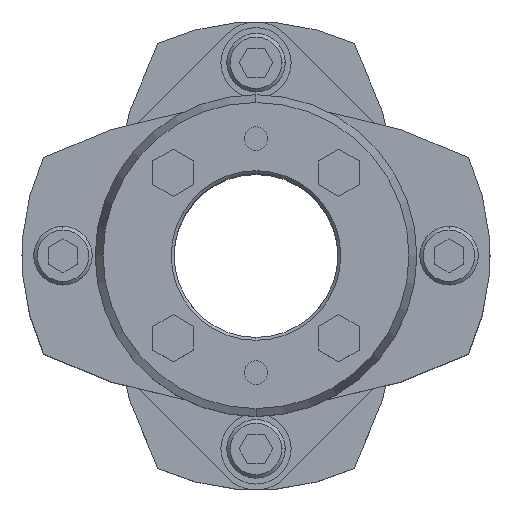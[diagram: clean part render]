
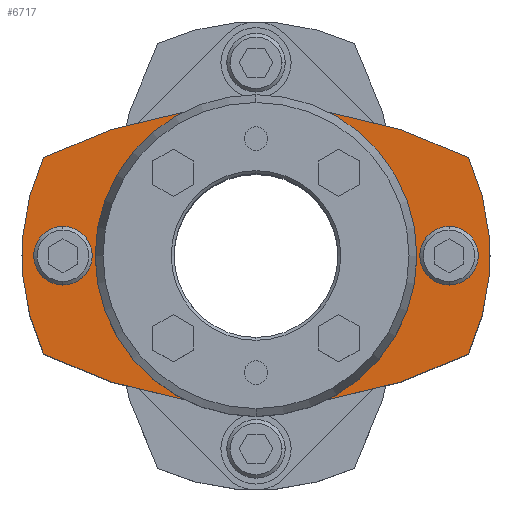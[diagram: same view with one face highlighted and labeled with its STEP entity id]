
A CAD part, top view. The second image highlights one B-rep face of the part: STEP entity #6717.
In plain terms, the highlighted planar face has unit normal (0, 0, 1).
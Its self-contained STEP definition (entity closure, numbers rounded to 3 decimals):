
#1593=CARTESIAN_POINT('',(0.,25.5,19.25));
#1594=VERTEX_POINT('',#1593);
#1610=CARTESIAN_POINT('',(-36.307,16.787,19.25));
#1611=VERTEX_POINT('',#1610);
#1618=CARTESIAN_POINT('',(0.,-54.5,19.25));
#1619=DIRECTION('',(0.0,0.0,-1.0));
#1620=DIRECTION('',(0.,1.0,0.0));
#1621=AXIS2_PLACEMENT_3D('',#1618,#1619,#1620);
#1622=CIRCLE('',#1621,80.);
#1623=EDGE_CURVE('',#1611,#1594,#1622,.T.);
#1633=CARTESIAN_POINT('',(0.,-25.5,19.25));
#1634=VERTEX_POINT('',#1633);
#1643=CARTESIAN_POINT('',(-36.307,-16.787,19.25));
#1644=VERTEX_POINT('',#1643);
#1645=CARTESIAN_POINT('',(0.,54.5,19.25));
#1646=DIRECTION('',(0.0,0.0,-1.0));
#1647=DIRECTION('',(0.,1.0,0.0));
#1648=AXIS2_PLACEMENT_3D('',#1645,#1646,#1647);
#1649=CIRCLE('',#1648,80.);
#1650=EDGE_CURVE('',#1634,#1644,#1649,.T.);
#1899=CARTESIAN_POINT('',(0.,24.,19.25));
#1900=VERTEX_POINT('',#1899);
#1950=CARTESIAN_POINT('',(0.,-24.,19.25));
#1951=VERTEX_POINT('',#1950);
#1958=CARTESIAN_POINT('',(0.,0.,19.25));
#1959=DIRECTION('',(0.0,0.0,-1.0));
#1960=DIRECTION('',(0.,1.0,0.0));
#1961=AXIS2_PLACEMENT_3D('',#1958,#1959,#1960);
#1962=CIRCLE('',#1961,24.0);
#1963=EDGE_CURVE('',#1900,#1951,#1962,.T.);
#2059=CARTESIAN_POINT('',(33.,5.,19.25));
#2060=VERTEX_POINT('',#2059);
#2076=CARTESIAN_POINT('',(33.,-5.,19.25));
#2077=VERTEX_POINT('',#2076);
#2084=CARTESIAN_POINT('',(33.,0.,19.25));
#2085=DIRECTION('',(0.0,0.0,-1.0));
#2086=DIRECTION('',(0.,1.0,0.0));
#2087=AXIS2_PLACEMENT_3D('',#2084,#2085,#2086);
#2088=CIRCLE('',#2087,5.0);
#2089=EDGE_CURVE('',#2060,#2077,#2088,.T.);
#2133=CARTESIAN_POINT('',(-33.,5.,19.25));
#2134=VERTEX_POINT('',#2133);
#2150=CARTESIAN_POINT('',(-33.,-5.,19.25));
#2151=VERTEX_POINT('',#2150);
#2158=CARTESIAN_POINT('',(-33.,0.,19.25));
#2159=DIRECTION('',(0.0,0.0,-1.0));
#2160=DIRECTION('',(0.,1.0,0.0));
#2161=AXIS2_PLACEMENT_3D('',#2158,#2159,#2160);
#2162=CIRCLE('',#2161,5.0);
#2163=EDGE_CURVE('',#2134,#2151,#2162,.T.);
#5268=CARTESIAN_POINT('',(-33.,0.,19.25));
#5269=DIRECTION('',(0.0,0.0,-1.0));
#5270=DIRECTION('',(0.,1.0,0.0));
#5271=AXIS2_PLACEMENT_3D('',#5268,#5269,#5270);
#5272=CIRCLE('',#5271,5.0);
#5273=EDGE_CURVE('',#2151,#2134,#5272,.T.);
#5328=CARTESIAN_POINT('',(33.,0.,19.25));
#5329=DIRECTION('',(0.0,0.0,-1.0));
#5330=DIRECTION('',(0.,1.0,0.0));
#5331=AXIS2_PLACEMENT_3D('',#5328,#5329,#5330);
#5332=CIRCLE('',#5331,5.0);
#5333=EDGE_CURVE('',#2077,#2060,#5332,.T.);
#6400=CARTESIAN_POINT('',(0.,0.,19.25));
#6401=DIRECTION('',(0.0,0.0,-1.0));
#6402=DIRECTION('',(0.,1.0,0.0));
#6403=AXIS2_PLACEMENT_3D('',#6400,#6401,#6402);
#6404=CIRCLE('',#6403,24.0);
#6405=EDGE_CURVE('',#1951,#1900,#6404,.T.);
#6613=CARTESIAN_POINT('',(36.307,-16.787,19.25));
#6614=VERTEX_POINT('',#6613);
#6621=CARTESIAN_POINT('',(0.,54.5,19.25));
#6622=DIRECTION('',(0.0,0.0,-1.0));
#6623=DIRECTION('',(0.,1.0,0.0));
#6624=AXIS2_PLACEMENT_3D('',#6621,#6622,#6623);
#6625=CIRCLE('',#6624,80.);
#6626=EDGE_CURVE('',#6614,#1634,#6625,.T.);
#6636=CARTESIAN_POINT('',(0.,0.,19.25));
#6637=DIRECTION('',(0.0,0.0,-1.0));
#6638=DIRECTION('',(0.,1.0,0.0));
#6639=AXIS2_PLACEMENT_3D('',#6636,#6637,#6638);
#6640=CIRCLE('',#6639,40.);
#6641=EDGE_CURVE('',#1644,#1611,#6640,.T.);
#6655=CARTESIAN_POINT('',(36.307,16.787,19.25));
#6656=VERTEX_POINT('',#6655);
#6657=CARTESIAN_POINT('',(0.,-54.5,19.25));
#6658=DIRECTION('',(0.0,0.0,-1.0));
#6659=DIRECTION('',(0.,1.0,0.0));
#6660=AXIS2_PLACEMENT_3D('',#6657,#6658,#6659);
#6661=CIRCLE('',#6660,80.);
#6662=EDGE_CURVE('',#1594,#6656,#6661,.T.);
#6679=CARTESIAN_POINT('',(0.,0.,19.25));
#6680=DIRECTION('',(0.0,0.0,-1.0));
#6681=DIRECTION('',(0.,1.0,0.0));
#6682=AXIS2_PLACEMENT_3D('',#6679,#6680,#6681);
#6683=CIRCLE('',#6682,40.);
#6684=EDGE_CURVE('',#6656,#6614,#6683,.T.);
#6692=CARTESIAN_POINT('',(0.,0.,19.25));
#6693=DIRECTION('',(0.0,0.0,1.0));
#6694=DIRECTION('',(0.,1.0,0.0));
#6695=AXIS2_PLACEMENT_3D('',#6692,#6693,#6694);
#6696=PLANE('',#6695);
#6697=ORIENTED_EDGE('',*,*,#6626,.F.);
#6698=ORIENTED_EDGE('',*,*,#6684,.F.);
#6699=ORIENTED_EDGE('',*,*,#6662,.F.);
#6700=ORIENTED_EDGE('',*,*,#1623,.F.);
#6701=ORIENTED_EDGE('',*,*,#6641,.F.);
#6702=ORIENTED_EDGE('',*,*,#1650,.F.);
#6703=EDGE_LOOP('',(#6697,#6698,#6699,#6700,#6701,#6702));
#6704=FACE_OUTER_BOUND('',#6703,.T.);
#6705=ORIENTED_EDGE('',*,*,#2163,.T.);
#6706=ORIENTED_EDGE('',*,*,#5273,.T.);
#6707=EDGE_LOOP('',(#6705,#6706));
#6708=FACE_BOUND('',#6707,.T.);
#6709=ORIENTED_EDGE('',*,*,#2089,.T.);
#6710=ORIENTED_EDGE('',*,*,#5333,.T.);
#6711=EDGE_LOOP('',(#6709,#6710));
#6712=FACE_BOUND('',#6711,.T.);
#6713=ORIENTED_EDGE('',*,*,#1963,.T.);
#6714=ORIENTED_EDGE('',*,*,#6405,.T.);
#6715=EDGE_LOOP('',(#6713,#6714));
#6716=FACE_BOUND('',#6715,.T.);
#6717=ADVANCED_FACE('',(#6704,#6708,#6712,#6716),#6696,.T.);
